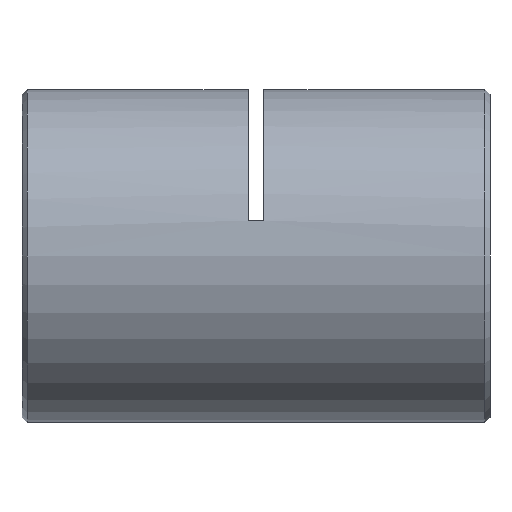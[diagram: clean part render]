
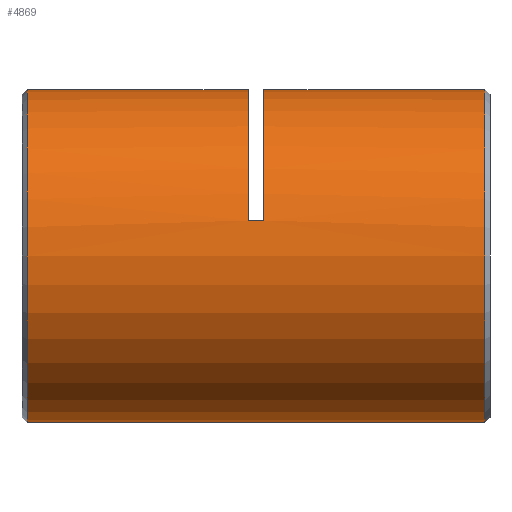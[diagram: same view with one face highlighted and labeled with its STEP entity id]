
A CAD part, left-side view. The second image highlights one B-rep face of the part: STEP entity #4869.
In plain terms, the highlighted cylindrical face has radius 16 mm (diameter 32 mm), a partial arc.
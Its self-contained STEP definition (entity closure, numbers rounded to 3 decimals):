
#17 = VECTOR ( 'NONE', #1202, 1000. ) ;
#90 = ORIENTED_EDGE ( 'NONE', *, *, #1597, .T. ) ;
#162 = ORIENTED_EDGE ( 'NONE', *, *, #5445, .T. ) ;
#371 = ORIENTED_EDGE ( 'NONE', *, *, #3210, .T. ) ;
#398 = VERTEX_POINT ( 'NONE', #2712 ) ;
#415 = DIRECTION ( 'NONE',  ( 0., 1., 0. ) ) ;
#602 = VERTEX_POINT ( 'NONE', #2608 ) ;
#684 = CARTESIAN_POINT ( 'NONE',  ( 0., 44.75, -16. ) ) ;
#931 = CARTESIAN_POINT ( 'NONE',  ( 0., 0., 16. ) ) ;
#991 = CYLINDRICAL_SURFACE ( 'NONE', #4835, 16. ) ;
#1089 = EDGE_CURVE ( 'NONE', #5751, #602, #4563, .T. ) ;
#1202 = DIRECTION ( 'NONE',  ( 0., 1., 0. ) ) ;
#1268 = EDGE_CURVE ( 'NONE', #4180, #602, #4009, .T. ) ;
#1350 = CARTESIAN_POINT ( 'NONE',  ( 0., 44.75, 0. ) ) ;
#1351 = DIRECTION ( 'NONE',  ( 0., 0., 1. ) ) ;
#1385 = DIRECTION ( 'NONE',  ( 0., -1., 0. ) ) ;
#1435 = CIRCLE ( 'NONE', #5333, 16. ) ;
#1597 = EDGE_CURVE ( 'NONE', #5993, #5751, #3156, .T. ) ;
#1676 = CARTESIAN_POINT ( 'NONE',  ( 0., 0., -16. ) ) ;
#1706 = LINE ( 'NONE', #1676, #5743 ) ;
#1806 = CARTESIAN_POINT ( 'NONE',  ( 0., 0.75, -16. ) ) ;
#2013 = ORIENTED_EDGE ( 'NONE', *, *, #1089, .T. ) ;
#2039 = CARTESIAN_POINT ( 'NONE',  ( -15.632, 23.5, 3.413 ) ) ;
#2126 = CARTESIAN_POINT ( 'NONE',  ( 0., 0., 16. ) ) ;
#2509 = EDGE_CURVE ( 'NONE', #4180, #3652, #5190, .T. ) ;
#2608 = CARTESIAN_POINT ( 'NONE',  ( 0., 22., 16. ) ) ;
#2623 = VERTEX_POINT ( 'NONE', #4801 ) ;
#2712 = CARTESIAN_POINT ( 'NONE',  ( 0., 23.5, 16. ) ) ;
#2834 = ORIENTED_EDGE ( 'NONE', *, *, #2509, .T. ) ;
#2931 = LINE ( 'NONE', #931, #6184 ) ;
#3017 = FACE_OUTER_BOUND ( 'NONE', #4564, .T. ) ;
#3038 = ORIENTED_EDGE ( 'NONE', *, *, #4668, .T. ) ;
#3156 = CIRCLE ( 'NONE', #4376, 16. ) ;
#3200 = CARTESIAN_POINT ( 'NONE',  ( -15.632, 22.75, 3.413 ) ) ;
#3210 = EDGE_CURVE ( 'NONE', #398, #2623, #2931, .T. ) ;
#3293 = DIRECTION ( 'NONE',  ( 0., 0., 1. ) ) ;
#3413 = DIRECTION ( 'NONE',  ( 0., 1., 0. ) ) ;
#3459 = ORIENTED_EDGE ( 'NONE', *, *, #5638, .F. ) ;
#3504 = DIRECTION ( 'NONE',  ( 0., 1., 0. ) ) ;
#3652 = VERTEX_POINT ( 'NONE', #2039 ) ;
#3662 = DIRECTION ( 'NONE',  ( 0., 1., 0. ) ) ;
#4009 = CIRCLE ( 'NONE', #5155, 16. ) ;
#4180 = VERTEX_POINT ( 'NONE', #4594 ) ;
#4376 = AXIS2_PLACEMENT_3D ( 'NONE', #5274, #6238, #1351 ) ;
#4422 = CARTESIAN_POINT ( 'NONE',  ( 0., 0., 0. ) ) ;
#4563 = LINE ( 'NONE', #2126, #5754 ) ;
#4564 = EDGE_LOOP ( 'NONE', ( #3459, #90, #2013, #5688, #2834, #162, #371, #3038 ) ) ;
#4594 = CARTESIAN_POINT ( 'NONE',  ( -15.632, 22., 3.413 ) ) ;
#4668 = EDGE_CURVE ( 'NONE', #2623, #6166, #6169, .T. ) ;
#4801 = CARTESIAN_POINT ( 'NONE',  ( 0., 44.75, 16. ) ) ;
#4827 = CARTESIAN_POINT ( 'NONE',  ( 0., 22., 0. ) ) ;
#4835 = AXIS2_PLACEMENT_3D ( 'NONE', #4422, #4972, #4853 ) ;
#4853 = DIRECTION ( 'NONE',  ( 0., 0., 1. ) ) ;
#4869 = ADVANCED_FACE ( 'NONE', ( #3017 ), #991, .T. ) ;
#4935 = AXIS2_PLACEMENT_3D ( 'NONE', #1350, #1385, #6205 ) ;
#4972 = DIRECTION ( 'NONE',  ( 0., 1., 0. ) ) ;
#5114 = DIRECTION ( 'NONE',  ( 0., 1., 0. ) ) ;
#5155 = AXIS2_PLACEMENT_3D ( 'NONE', #4827, #415, #3293 ) ;
#5190 = LINE ( 'NONE', #3200, #17 ) ;
#5274 = CARTESIAN_POINT ( 'NONE',  ( 0., 0.75, 0. ) ) ;
#5333 = AXIS2_PLACEMENT_3D ( 'NONE', #6369, #3504, #5858 ) ;
#5445 = EDGE_CURVE ( 'NONE', #3652, #398, #1435, .T. ) ;
#5638 = EDGE_CURVE ( 'NONE', #5993, #6166, #1706, .T. ) ;
#5688 = ORIENTED_EDGE ( 'NONE', *, *, #1268, .F. ) ;
#5743 = VECTOR ( 'NONE', #3662, 1000. ) ;
#5751 = VERTEX_POINT ( 'NONE', #6334 ) ;
#5754 = VECTOR ( 'NONE', #5114, 1000. ) ;
#5858 = DIRECTION ( 'NONE',  ( 0., 0., 1. ) ) ;
#5993 = VERTEX_POINT ( 'NONE', #1806 ) ;
#6166 = VERTEX_POINT ( 'NONE', #684 ) ;
#6169 = CIRCLE ( 'NONE', #4935, 16. ) ;
#6184 = VECTOR ( 'NONE', #3413, 1000. ) ;
#6205 = DIRECTION ( 'NONE',  ( 0., 0., -1. ) ) ;
#6238 = DIRECTION ( 'NONE',  ( 0., 1., 0. ) ) ;
#6334 = CARTESIAN_POINT ( 'NONE',  ( 0., 0.75, 16. ) ) ;
#6369 = CARTESIAN_POINT ( 'NONE',  ( 0., 23.5, 0. ) ) ;
